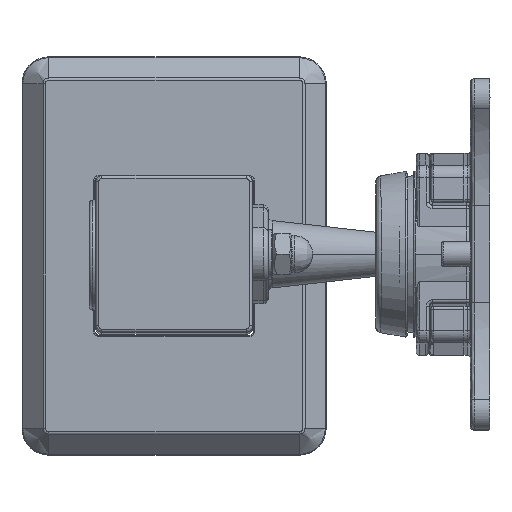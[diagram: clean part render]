
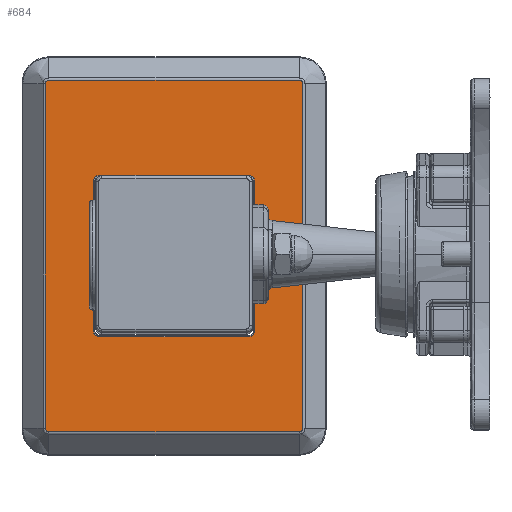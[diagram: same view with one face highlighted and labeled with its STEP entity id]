
A CAD part, top view. The second image highlights one B-rep face of the part: STEP entity #684.
In plain terms, the highlighted planar face has unit normal (0, 0, 1).
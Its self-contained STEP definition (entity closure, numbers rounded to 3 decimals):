
#260=FACE_BOUND('',#2701,.T.);
#684=ADVANCED_FACE('',(#1674,#260),#15484,.T.);
#1674=FACE_OUTER_BOUND('',#2700,.T.);
#2700=EDGE_LOOP('',(#5236,#5237,#5238,#5239,#5240,#5241,#5242,#5243));
#2701=EDGE_LOOP('',(#5244,#5245,#5246,#5247,#5248,#5249,#5250,#5251));
#5236=ORIENTED_EDGE('',*,*,#9475,.F.);
#5237=ORIENTED_EDGE('',*,*,#9474,.F.);
#5238=ORIENTED_EDGE('',*,*,#9471,.F.);
#5239=ORIENTED_EDGE('',*,*,#9478,.F.);
#5240=ORIENTED_EDGE('',*,*,#9442,.F.);
#5241=ORIENTED_EDGE('',*,*,#9452,.F.);
#5242=ORIENTED_EDGE('',*,*,#9453,.F.);
#5243=ORIENTED_EDGE('',*,*,#9477,.F.);
#5244=ORIENTED_EDGE('',*,*,#9426,.F.);
#5245=ORIENTED_EDGE('',*,*,#9427,.F.);
#5246=ORIENTED_EDGE('',*,*,#9422,.F.);
#5247=ORIENTED_EDGE('',*,*,#9419,.F.);
#5248=ORIENTED_EDGE('',*,*,#9418,.F.);
#5249=ORIENTED_EDGE('',*,*,#9423,.F.);
#5250=ORIENTED_EDGE('',*,*,#9424,.F.);
#5251=ORIENTED_EDGE('',*,*,#9425,.F.);
#9418=EDGE_CURVE('',#14284,#14285,#13217,.T.);
#9419=EDGE_CURVE('',#14285,#14286,#11594,.T.);
#9422=EDGE_CURVE('',#14286,#14287,#13218,.T.);
#9423=EDGE_CURVE('',#14288,#14284,#11597,.T.);
#9424=EDGE_CURVE('',#14289,#14288,#13219,.T.);
#9425=EDGE_CURVE('',#14290,#14289,#11598,.T.);
#9426=EDGE_CURVE('',#14291,#14290,#13220,.T.);
#9427=EDGE_CURVE('',#14287,#14291,#11599,.T.);
#9442=EDGE_CURVE('',#14303,#14302,#11609,.T.);
#9452=EDGE_CURVE('',#14309,#14303,#13230,.T.);
#9453=EDGE_CURVE('',#14310,#14309,#11615,.T.);
#9471=EDGE_CURVE('',#14321,#14322,#11627,.T.);
#9474=EDGE_CURVE('',#14322,#14323,#13239,.T.);
#9475=EDGE_CURVE('',#14323,#14324,#11628,.T.);
#9477=EDGE_CURVE('',#14324,#14310,#13241,.T.);
#9478=EDGE_CURVE('',#14302,#14321,#13242,.T.);
#11594=B_SPLINE_CURVE_WITH_KNOTS('',1,(#30522,#30523),.UNSPECIFIED.,.F.,
 .F.,(2,2),(-47.5,0.),.UNSPECIFIED.);
#11597=B_SPLINE_CURVE_WITH_KNOTS('',1,(#30531,#30532),.UNSPECIFIED.,.F.,
 .F.,(2,2),(-47.5,0.),.UNSPECIFIED.);
#11598=B_SPLINE_CURVE_WITH_KNOTS('',1,(#30536,#30537),.UNSPECIFIED.,.F.,
 .F.,(2,2),(-47.5,0.),.UNSPECIFIED.);
#11599=B_SPLINE_CURVE_WITH_KNOTS('',1,(#30541,#30542),.UNSPECIFIED.,.F.,
 .F.,(2,2),(-47.5,0.),.UNSPECIFIED.);
#11609=B_SPLINE_CURVE_WITH_KNOTS('',1,(#30576,#30577),.UNSPECIFIED.,.F.,
 .F.,(2,2),(-110.,0.),.UNSPECIFIED.);
#11615=B_SPLINE_CURVE_WITH_KNOTS('',1,(#30603,#30604),.UNSPECIFIED.,.F.,
 .F.,(2,2),(-80.,0.),.UNSPECIFIED.);
#11627=B_SPLINE_CURVE_WITH_KNOTS('',1,(#30645,#30646),.UNSPECIFIED.,.F.,
 .F.,(2,2),(-80.,0.),.UNSPECIFIED.);
#11628=B_SPLINE_CURVE_WITH_KNOTS('',1,(#30656,#30657),.UNSPECIFIED.,.F.,
 .F.,(2,2),(-110.,0.),.UNSPECIFIED.);
#13217=(
BOUNDED_CURVE()
B_SPLINE_CURVE(2,(#30519,#30520,#30521),.UNSPECIFIED.,.F.,.F.)
B_SPLINE_CURVE_WITH_KNOTS((3,3),(0.,3.142),.UNSPECIFIED.)
CURVE()
GEOMETRIC_REPRESENTATION_ITEM()
RATIONAL_B_SPLINE_CURVE((1.,0.707,1.))
REPRESENTATION_ITEM('')
);
#13218=(
BOUNDED_CURVE()
B_SPLINE_CURVE(2,(#30528,#30529,#30530),.UNSPECIFIED.,.F.,.F.)
B_SPLINE_CURVE_WITH_KNOTS((3,3),(0.,3.142),.UNSPECIFIED.)
CURVE()
GEOMETRIC_REPRESENTATION_ITEM()
RATIONAL_B_SPLINE_CURVE((1.,0.707,1.))
REPRESENTATION_ITEM('')
);
#13219=(
BOUNDED_CURVE()
B_SPLINE_CURVE(2,(#30533,#30534,#30535),.UNSPECIFIED.,.F.,.F.)
B_SPLINE_CURVE_WITH_KNOTS((3,3),(0.,3.142),.UNSPECIFIED.)
CURVE()
GEOMETRIC_REPRESENTATION_ITEM()
RATIONAL_B_SPLINE_CURVE((1.,0.707,1.))
REPRESENTATION_ITEM('')
);
#13220=(
BOUNDED_CURVE()
B_SPLINE_CURVE(2,(#30538,#30539,#30540),.UNSPECIFIED.,.F.,.F.)
B_SPLINE_CURVE_WITH_KNOTS((3,3),(0.,3.142),.UNSPECIFIED.)
CURVE()
GEOMETRIC_REPRESENTATION_ITEM()
RATIONAL_B_SPLINE_CURVE((1.,0.707,1.))
REPRESENTATION_ITEM('')
);
#13230=(
BOUNDED_CURVE()
B_SPLINE_CURVE(2,(#30600,#30601,#30602),.UNSPECIFIED.,.F.,.F.)
B_SPLINE_CURVE_WITH_KNOTS((3,3),(0.,1.706),.UNSPECIFIED.)
CURVE()
GEOMETRIC_REPRESENTATION_ITEM()
RATIONAL_B_SPLINE_CURVE((1.,0.707,1.))
REPRESENTATION_ITEM('')
);
#13239=(
BOUNDED_CURVE()
B_SPLINE_CURVE(2,(#30653,#30654,#30655),.UNSPECIFIED.,.F.,.F.)
B_SPLINE_CURVE_WITH_KNOTS((3,3),(0.,1.706),.UNSPECIFIED.)
CURVE()
GEOMETRIC_REPRESENTATION_ITEM()
RATIONAL_B_SPLINE_CURVE((1.,0.707,1.))
REPRESENTATION_ITEM('')
);
#13241=(
BOUNDED_CURVE()
B_SPLINE_CURVE(2,(#30661,#30662,#30663),.UNSPECIFIED.,.F.,.F.)
B_SPLINE_CURVE_WITH_KNOTS((3,3),(0.,1.706),.UNSPECIFIED.)
CURVE()
GEOMETRIC_REPRESENTATION_ITEM()
RATIONAL_B_SPLINE_CURVE((1.,0.707,1.))
REPRESENTATION_ITEM('')
);
#13242=(
BOUNDED_CURVE()
B_SPLINE_CURVE(2,(#30664,#30665,#30666),.UNSPECIFIED.,.F.,.F.)
B_SPLINE_CURVE_WITH_KNOTS((3,3),(0.,1.706),.UNSPECIFIED.)
CURVE()
GEOMETRIC_REPRESENTATION_ITEM()
RATIONAL_B_SPLINE_CURVE((1.,0.707,1.))
REPRESENTATION_ITEM('')
);
#14284=VERTEX_POINT('',#30461);
#14285=VERTEX_POINT('',#30462);
#14286=VERTEX_POINT('',#30463);
#14287=VERTEX_POINT('',#30464);
#14288=VERTEX_POINT('',#30465);
#14289=VERTEX_POINT('',#30466);
#14290=VERTEX_POINT('',#30467);
#14291=VERTEX_POINT('',#30468);
#14302=VERTEX_POINT('',#30479);
#14303=VERTEX_POINT('',#30480);
#14309=VERTEX_POINT('',#30486);
#14310=VERTEX_POINT('',#30487);
#14321=VERTEX_POINT('',#30498);
#14322=VERTEX_POINT('',#30499);
#14323=VERTEX_POINT('',#30500);
#14324=VERTEX_POINT('',#30501);
#15484=PLANE('',#17461);
#17461=AXIS2_PLACEMENT_3D('',#29889,#17747,$);
#17747=DIRECTION('',(0.,0.,1.));
#29889=CARTESIAN_POINT('',(49.495,-67.495,12.5));
#30461=CARTESIAN_POINT('',(25.75,23.75,12.5));
#30462=CARTESIAN_POINT('',(23.75,25.75,12.5));
#30463=CARTESIAN_POINT('',(-23.75,25.75,12.5));
#30464=CARTESIAN_POINT('',(-25.75,23.75,12.5));
#30465=CARTESIAN_POINT('',(25.75,-23.75,12.5));
#30466=CARTESIAN_POINT('',(23.75,-25.75,12.5));
#30467=CARTESIAN_POINT('',(-23.75,-25.75,12.5));
#30468=CARTESIAN_POINT('',(-25.75,-23.75,12.5));
#30479=CARTESIAN_POINT('',(-41.086,55.,12.5));
#30480=CARTESIAN_POINT('',(-41.086,-55.,12.5));
#30486=CARTESIAN_POINT('',(-40.,-56.086,12.5));
#30487=CARTESIAN_POINT('',(40.,-56.086,12.5));
#30498=CARTESIAN_POINT('',(-40.,56.086,12.5));
#30499=CARTESIAN_POINT('',(40.,56.086,12.5));
#30500=CARTESIAN_POINT('',(41.086,55.,12.5));
#30501=CARTESIAN_POINT('',(41.086,-55.,12.5));
#30519=CARTESIAN_POINT('',(25.75,23.75,12.5));
#30520=CARTESIAN_POINT('',(25.75,25.75,12.5));
#30521=CARTESIAN_POINT('',(23.75,25.75,12.5));
#30522=CARTESIAN_POINT('',(23.75,25.75,12.5));
#30523=CARTESIAN_POINT('',(-23.75,25.75,12.5));
#30528=CARTESIAN_POINT('',(-23.75,25.75,12.5));
#30529=CARTESIAN_POINT('',(-25.75,25.75,12.5));
#30530=CARTESIAN_POINT('',(-25.75,23.75,12.5));
#30531=CARTESIAN_POINT('',(25.75,-23.75,12.5));
#30532=CARTESIAN_POINT('',(25.75,23.75,12.5));
#30533=CARTESIAN_POINT('',(23.75,-25.75,12.5));
#30534=CARTESIAN_POINT('',(25.75,-25.75,12.5));
#30535=CARTESIAN_POINT('',(25.75,-23.75,12.5));
#30536=CARTESIAN_POINT('',(-23.75,-25.75,12.5));
#30537=CARTESIAN_POINT('',(23.75,-25.75,12.5));
#30538=CARTESIAN_POINT('',(-25.75,-23.75,12.5));
#30539=CARTESIAN_POINT('',(-25.75,-25.75,12.5));
#30540=CARTESIAN_POINT('',(-23.75,-25.75,12.5));
#30541=CARTESIAN_POINT('',(-25.75,23.75,12.5));
#30542=CARTESIAN_POINT('',(-25.75,-23.75,12.5));
#30576=CARTESIAN_POINT('',(-41.086,-55.,12.5));
#30577=CARTESIAN_POINT('',(-41.086,55.,12.5));
#30600=CARTESIAN_POINT('',(-40.,-56.086,12.5));
#30601=CARTESIAN_POINT('',(-41.086,-56.086,12.5));
#30602=CARTESIAN_POINT('',(-41.086,-55.,12.5));
#30603=CARTESIAN_POINT('',(40.,-56.086,12.5));
#30604=CARTESIAN_POINT('',(-40.,-56.086,12.5));
#30645=CARTESIAN_POINT('',(-40.,56.086,12.5));
#30646=CARTESIAN_POINT('',(40.,56.086,12.5));
#30653=CARTESIAN_POINT('',(40.,56.086,12.5));
#30654=CARTESIAN_POINT('',(41.086,56.086,12.5));
#30655=CARTESIAN_POINT('',(41.086,55.,12.5));
#30656=CARTESIAN_POINT('',(41.086,55.,12.5));
#30657=CARTESIAN_POINT('',(41.086,-55.,12.5));
#30661=CARTESIAN_POINT('',(41.086,-55.,12.5));
#30662=CARTESIAN_POINT('',(41.086,-56.086,12.5));
#30663=CARTESIAN_POINT('',(40.,-56.086,12.5));
#30664=CARTESIAN_POINT('',(-41.086,55.,12.5));
#30665=CARTESIAN_POINT('',(-41.086,56.086,12.5));
#30666=CARTESIAN_POINT('',(-40.,56.086,12.5));
